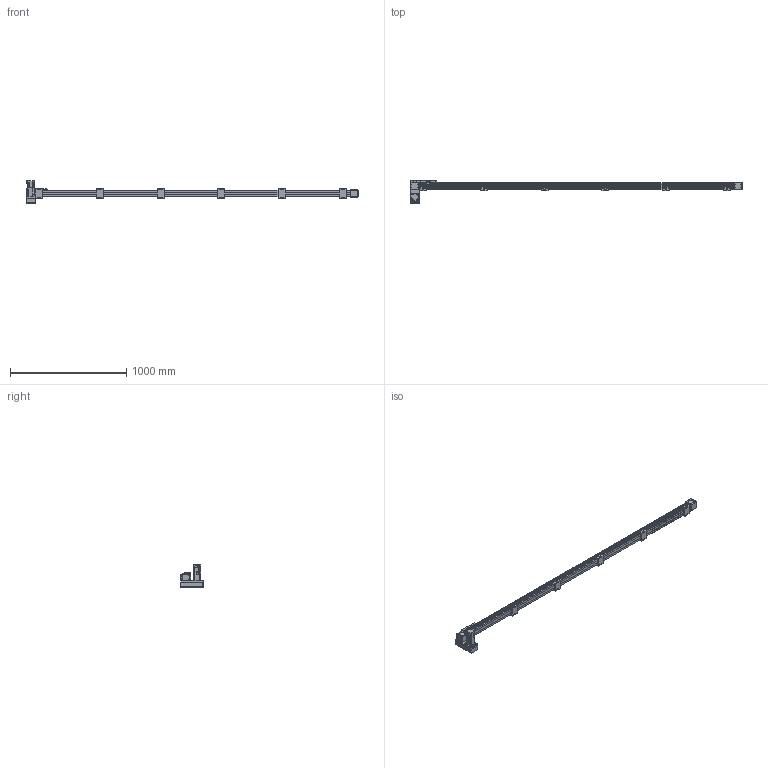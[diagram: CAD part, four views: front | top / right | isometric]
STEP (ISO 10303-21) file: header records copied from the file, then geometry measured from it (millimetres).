
FILE_DESCRIPTION(/* description */ ('STEP AP214'),/* implementation_level */ '2;1');
FILE_NAME(/* name */ 'SK60-P13-S2550-LD-T40-C1-N(0)',/* time_stamp */ '2023-04-06T04:39:58+02:00',/* author */ ('License CC BY-ND 4.0'),/* organization */ ('CADENAS'),/* preprocessor_version */ 'ST-DEVELOPER v19.3',/* originating_system */ 'PARTsolutions',/* authorisation */ ' ');
FILE_SCHEMA (('AUTOMOTIVE_DESIGN {1 0 10303 214 3 1 1}'));
Length unit declared in the file: millimetre
Products named in the file (10): SK60-P13-S2550-LD-T40-C1-N(0); PSC140-sensor; SK60-S450_seat; SK60-S450-BL-C1_slider; SK60_body3; SK60_body6; SK60-BL_body2; T40-p1; SK60-LD_fb; SK60-S2550-LD-C1_body
Assembly tree (20 placements, depth 2):
  SK60-P13-S2550-LD-T40-C1-N(0)
    PSC140-sensor  x3
    SK60-S450_seat  x6
    SK60-S450-BL-C1_slider
    SK60_body3  x3
    SK60_body6  x2
    SK60-BL_body2  x2
    T40-p1
    SK60-LD_fb
    SK60-S2550-LD-C1_body
Bounding box: 2855.5 x 199 x 189.7 mm (x, y, z)
Volume: 10928903.6 mm3; surface area: 1294803.5 mm2
Topology: 20 solids, 20 shells, 986 faces, 2440 edges, 1605 vertices
Faces by surface type: plane 620, cylinder 326, cone 38, torus 2
Full cylindrical faces by diameter (mm): 2.8 x3, 3.3 x4, 4 x2, 4.5 x30, 4.6 x3, 4.917 x32, 5 x6, 5.478 x4, 5.5 x35, 6.5 x12, 7 x2, 8 x4, 8.5 x4, 9.988 x4, 10 x24, 14 x1, 47 x3, 50 x2
Entity records: 18687 total; most frequent: DIRECTION 3192, CARTESIAN_POINT 3154, ORIENTED_EDGE 2940, EDGE_CURVE 1470, AXIS2_PLACEMENT_3D 1072, LINE 1048, VECTOR 1048, VERTEX_POINT 1034
